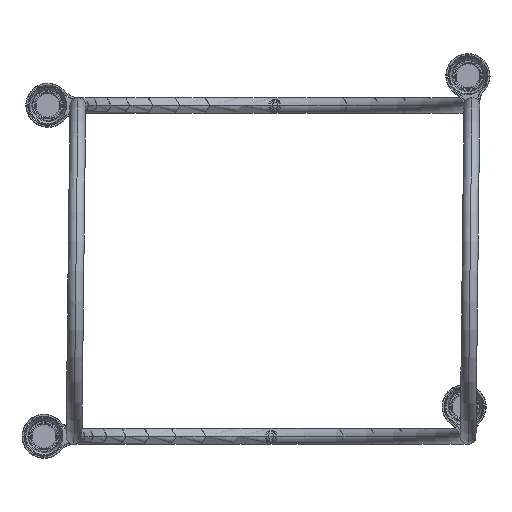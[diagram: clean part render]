
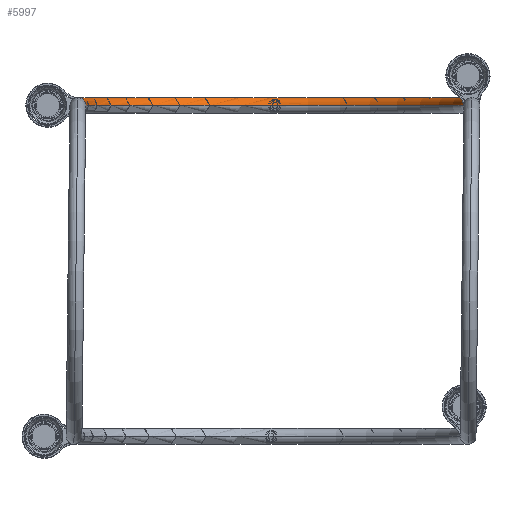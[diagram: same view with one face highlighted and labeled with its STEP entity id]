
A CAD part, front view. The second image highlights one B-rep face of the part: STEP entity #5997.
In plain terms, the highlighted toroidal (fillet/blend) face has major radius 125 mm and minor radius 5 mm.
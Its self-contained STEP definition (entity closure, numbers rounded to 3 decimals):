
#211 = ORIENTED_EDGE ( 'NONE', *, *, #18495, .T. ) ;
#518 = B_SPLINE_CURVE_WITH_KNOTS ( 'NONE', 3,
 ( #13961, #25441, #5826, #11894, #5742, #7249, #7331, #1229, #11807, #25356, #15364, #9704, #11718, #15988, #5210, #19336, #15904, #13264 ),
 .UNSPECIFIED., .F., .F.,
 ( 4, 2, 2, 2, 2, 2, 2, 2, 4 ),
 ( 0.011, 0.012, 0.013, 0.013, 0.014, 0.014, 0.015, 0.016, 0.016 ),
 .UNSPECIFIED. ) ;
#524 = VERTEX_POINT ( 'NONE', #9721 ) ;
#657 = VERTEX_POINT ( 'NONE', #24399 ) ;
#1229 = CARTESIAN_POINT ( 'NONE',  ( -129.412, 9.386, 212.366 ) ) ;
#2095 = CARTESIAN_POINT ( 'NONE',  ( -126.782, 9.071, 212.886 ) ) ;
#2717 = CARTESIAN_POINT ( 'NONE',  ( -125.744, 9.384, 212.37 ) ) ;
#3236 = VERTEX_POINT ( 'NONE', #9550 ) ;
#4042 = CARTESIAN_POINT ( 'NONE',  ( -124.676, 9.908, 210.781 ) ) ;
#4043 = CIRCLE ( 'NONE', #15649, 5. ) ;
#4217 = CARTESIAN_POINT ( 'NONE',  ( -127.575, -120., 209.986 ) ) ;
#4762 = CARTESIAN_POINT ( 'NONE',  ( -124.596, 9.953, 210.39 ) ) ;
#5210 = CARTESIAN_POINT ( 'NONE',  ( -130.476, 9.909, 210.777 ) ) ;
#5455 = CARTESIAN_POINT ( 'NONE',  ( -127.575, -120., 209.986 ) ) ;
#5712 = CARTESIAN_POINT ( 'NONE',  ( -257.575, -120., 209.986 ) ) ;
#5742 = CARTESIAN_POINT ( 'NONE',  ( -128.561, 9.112, 212.826 ) ) ;
#5826 = CARTESIAN_POINT ( 'NONE',  ( -127.979, 9.015, 212.965 ) ) ;
#5997 = ADVANCED_FACE ( 'NONE', ( #20625 ), #23450, .T. ) ;
#6258 = CARTESIAN_POINT ( 'NONE',  ( -124.982, 9.74, 211.507 ) ) ;
#6323 = CARTESIAN_POINT ( 'NONE',  ( -127.575, -120., 209.986 ) ) ;
#6393 = AXIS2_PLACEMENT_3D ( 'NONE', #6323, #24420, #22382 ) ;
#6410 = CARTESIAN_POINT ( 'NONE',  ( -252.575, -120., 209.986 ) ) ;
#6448 = EDGE_CURVE ( 'NONE', #657, #13769, #22805, .T. ) ;
#6600 = DIRECTION ( 'NONE',  ( -1., 0., 0. ) ) ;
#6776 = CARTESIAN_POINT ( 'NONE',  ( -126.591, 9.112, 212.826 ) ) ;
#7097 = AXIS2_PLACEMENT_3D ( 'NONE', #4217, #22485, #6600 ) ;
#7102 = CARTESIAN_POINT ( 'NONE',  ( -130.575, 9.965, 209.986 ) ) ;
#7249 = CARTESIAN_POINT ( 'NONE',  ( -128.921, 9.21, 212.675 ) ) ;
#7331 = CARTESIAN_POINT ( 'NONE',  ( -129.092, 9.266, 212.582 ) ) ;
#7496 = DIRECTION ( 'NONE',  ( 0., 0., -1. ) ) ;
#8024 = DIRECTION ( 'NONE',  ( -1., 0., 0. ) ) ;
#8030 = CARTESIAN_POINT ( 'NONE',  ( -124.575, 9.965, 210.188 ) ) ;
#8112 = CARTESIAN_POINT ( 'NONE',  ( -127.173, 9.015, 212.966 ) ) ;
#9550 = CARTESIAN_POINT ( 'NONE',  ( -124.575, 9.965, 209.986 ) ) ;
#9704 = CARTESIAN_POINT ( 'NONE',  ( -130.171, 9.741, 211.503 ) ) ;
#9721 = CARTESIAN_POINT ( 'NONE',  ( -127.575, 9., 212.986 ) ) ;
#10390 = CARTESIAN_POINT ( 'NONE',  ( -247.575, -120., 209.986 ) ) ;
#11718 = CARTESIAN_POINT ( 'NONE',  ( -130.263, 9.791, 211.333 ) ) ;
#11807 = CARTESIAN_POINT ( 'NONE',  ( -129.56, 9.448, 212.244 ) ) ;
#11894 = CARTESIAN_POINT ( 'NONE',  ( -128.369, 9.071, 212.886 ) ) ;
#11992 = EDGE_CURVE ( 'NONE', #22906, #657, #21302, .T. ) ;
#12479 = DIRECTION ( 'NONE',  ( 0., 0., 1. ) ) ;
#12575 = CIRCLE ( 'NONE', #25489, 130. ) ;
#13018 = ORIENTED_EDGE ( 'NONE', *, *, #6448, .T. ) ;
#13101 = DIRECTION ( 'NONE',  ( 0., 1., 0. ) ) ;
#13151 = AXIS2_PLACEMENT_3D ( 'NONE', #5455, #7496, #8024 ) ;
#13264 = CARTESIAN_POINT ( 'NONE',  ( -130.575, 9.965, 209.986 ) ) ;
#13769 = VERTEX_POINT ( 'NONE', #20596 ) ;
#13961 = CARTESIAN_POINT ( 'NONE',  ( -127.575, 9., 212.986 ) ) ;
#14212 = CARTESIAN_POINT ( 'NONE',  ( -127.372, 9., 212.986 ) ) ;
#14371 = DIRECTION ( 'NONE',  ( 0., -1., 0. ) ) ;
#14789 = ORIENTED_EDGE ( 'NONE', *, *, #11992, .T. ) ;
#14826 = CARTESIAN_POINT ( 'NONE',  ( -125.595, 9.447, 212.247 ) ) ;
#15309 = DIRECTION ( 'NONE',  ( 0., 0., -1. ) ) ;
#15364 = CARTESIAN_POINT ( 'NONE',  ( -129.955, 9.632, 211.823 ) ) ;
#15371 = CIRCLE ( 'NONE', #13151, 130. ) ;
#15649 = AXIS2_PLACEMENT_3D ( 'NONE', #6410, #14371, #12479 ) ;
#15904 = CARTESIAN_POINT ( 'NONE',  ( -130.575, 9.965, 210.189 ) ) ;
#15988 = CARTESIAN_POINT ( 'NONE',  ( -130.416, 9.875, 210.971 ) ) ;
#16242 = CARTESIAN_POINT ( 'NONE',  ( -125.2, 9.63, 211.829 ) ) ;
#16585 = EDGE_CURVE ( 'NONE', #3236, #13769, #15371, .T. ) ;
#16671 = VERTEX_POINT ( 'NONE', #5712 ) ;
#16845 = CARTESIAN_POINT ( 'NONE',  ( -124.735, 9.874, 210.973 ) ) ;
#16946 = EDGE_LOOP ( 'NONE', ( #22822, #18593, #14789, #13018, #24999, #19771, #211 ) ) ;
#17333 = DIRECTION ( 'NONE',  ( -1., 0., 0. ) ) ;
#18035 = VERTEX_POINT ( 'NONE', #7102 ) ;
#18159 = CARTESIAN_POINT ( 'NONE',  ( -126.064, 9.265, 212.585 ) ) ;
#18264 = CARTESIAN_POINT ( 'NONE',  ( -126.233, 9.209, 212.676 ) ) ;
#18304 = B_SPLINE_CURVE_WITH_KNOTS ( 'NONE', 3,
 ( #18874, #8030, #4762, #4042, #16845, #20273, #6258, #16242, #20183, #14826, #2717, #18159, #18264, #6776, #2095, #8112, #14212, #20363 ),
 .UNSPECIFIED., .F., .F.,
 ( 4, 2, 2, 2, 2, 2, 2, 2, 4 ),
 ( 0.007, 0.007, 0.008, 0.008, 0.009, 0.01, 0.01, 0.011, 0.011 ),
 .UNSPECIFIED. ) ;
#18495 = EDGE_CURVE ( 'NONE', #524, #18035, #518, .T. ) ;
#18593 = ORIENTED_EDGE ( 'NONE', *, *, #25869, .F. ) ;
#18874 = CARTESIAN_POINT ( 'NONE',  ( -124.575, 9.965, 209.986 ) ) ;
#18924 = DIRECTION ( 'NONE',  ( 0., 0., 1. ) ) ;
#19336 = CARTESIAN_POINT ( 'NONE',  ( -130.555, 9.954, 210.388 ) ) ;
#19582 = EDGE_CURVE ( 'NONE', #16671, #18035, #12575, .T. ) ;
#19771 = ORIENTED_EDGE ( 'NONE', *, *, #25317, .T. ) ;
#20183 = CARTESIAN_POINT ( 'NONE',  ( -125.324, 9.569, 211.978 ) ) ;
#20273 = CARTESIAN_POINT ( 'NONE',  ( -124.889, 9.79, 211.336 ) ) ;
#20363 = CARTESIAN_POINT ( 'NONE',  ( -127.575, 9., 212.986 ) ) ;
#20596 = CARTESIAN_POINT ( 'NONE',  ( 2.425, -120., 209.986 ) ) ;
#20625 = FACE_OUTER_BOUND ( 'NONE', #16946, .T. ) ;
#21302 = CIRCLE ( 'NONE', #7097, 120. ) ;
#22382 = DIRECTION ( 'NONE',  ( -1., 0., 0. ) ) ;
#22485 = DIRECTION ( 'NONE',  ( 0., 0., -1. ) ) ;
#22805 = CIRCLE ( 'NONE', #23318, 5. ) ;
#22822 = ORIENTED_EDGE ( 'NONE', *, *, #19582, .F. ) ;
#22906 = VERTEX_POINT ( 'NONE', #10390 ) ;
#23318 = AXIS2_PLACEMENT_3D ( 'NONE', #25034, #13101, #18924 ) ;
#23450 = TOROIDAL_SURFACE ( 'NONE', #6393, 125., 5. ) ;
#24399 = CARTESIAN_POINT ( 'NONE',  ( -7.575, -120., 209.986 ) ) ;
#24420 = DIRECTION ( 'NONE',  ( 0., 0., -1. ) ) ;
#24999 = ORIENTED_EDGE ( 'NONE', *, *, #16585, .F. ) ;
#25034 = CARTESIAN_POINT ( 'NONE',  ( -2.575, -120., 209.986 ) ) ;
#25317 = EDGE_CURVE ( 'NONE', #3236, #524, #18304, .T. ) ;
#25356 = CARTESIAN_POINT ( 'NONE',  ( -129.831, 9.571, 211.974 ) ) ;
#25441 = CARTESIAN_POINT ( 'NONE',  ( -127.778, 9., 212.986 ) ) ;
#25489 = AXIS2_PLACEMENT_3D ( 'NONE', #25726, #15309, #17333 ) ;
#25726 = CARTESIAN_POINT ( 'NONE',  ( -127.575, -120., 209.986 ) ) ;
#25869 = EDGE_CURVE ( 'NONE', #22906, #16671, #4043, .T. ) ;
